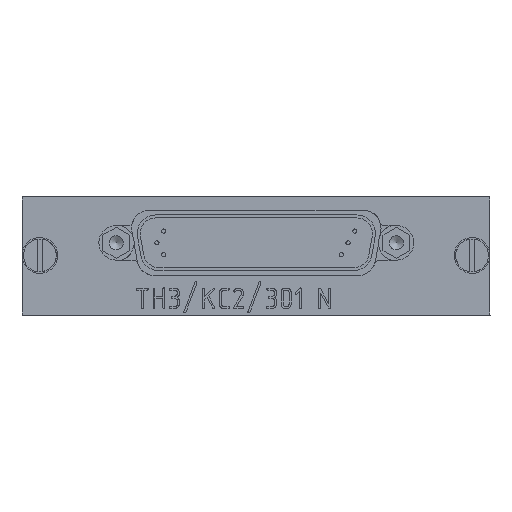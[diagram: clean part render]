
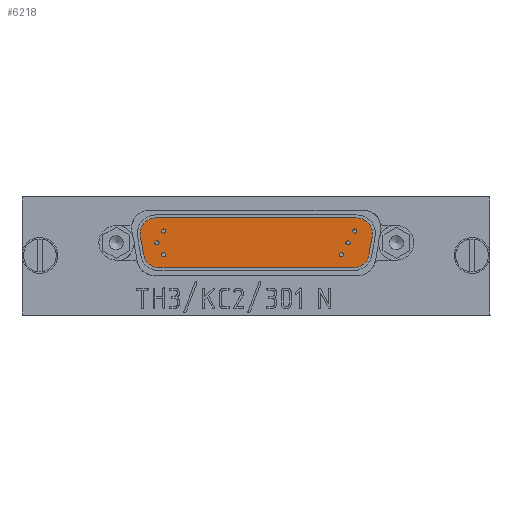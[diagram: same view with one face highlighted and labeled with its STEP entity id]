
A CAD part, left-side view. The second image highlights one B-rep face of the part: STEP entity #6218.
In plain terms, the highlighted planar face has unit normal (-1, 0, 0).
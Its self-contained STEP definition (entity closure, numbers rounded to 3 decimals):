
#6218=ADVANCED_FACE('',(#16360,#16362,#16364,#16366,#16368,#16370,#16372),#16374,
.T.);
#16360=FACE_BOUND('',#16361,.T.);
#16361=EDGE_LOOP('',(#25335,#25336,#25337,#25338,#25339,#25340,#25341,#25342));
#16362=FACE_BOUND('',#16363,.T.);
#16363=EDGE_LOOP('',(#25343));
#16364=FACE_BOUND('',#16365,.T.);
#16365=EDGE_LOOP('',(#25344));
#16366=FACE_BOUND('',#16367,.T.);
#16367=EDGE_LOOP('',(#25345));
#16368=FACE_BOUND('',#16369,.T.);
#16369=EDGE_LOOP('',(#25346));
#16370=FACE_BOUND('',#16371,.T.);
#16371=EDGE_LOOP('',(#25347));
#16372=FACE_BOUND('',#16373,.T.);
#16373=EDGE_LOOP('',(#25348));
#16374=PLANE('',#16375);
#16375=AXIS2_PLACEMENT_3D('',#16376,#16377,#16378);
#16376=CARTESIAN_POINT('',(-2.794,8.,0.07));
#16377=DIRECTION('',(-1.,0.,0.));
#16378=DIRECTION('',(0.,0.,1.));
#25335=ORIENTED_EDGE('',*,*,#29755,.T.);
#25336=ORIENTED_EDGE('',*,*,#29770,.T.);
#25337=ORIENTED_EDGE('',*,*,#29768,.T.);
#25338=ORIENTED_EDGE('',*,*,#29766,.T.);
#25339=ORIENTED_EDGE('',*,*,#29764,.T.);
#25340=ORIENTED_EDGE('',*,*,#29762,.T.);
#25341=ORIENTED_EDGE('',*,*,#29760,.T.);
#25342=ORIENTED_EDGE('',*,*,#29758,.T.);
#25343=ORIENTED_EDGE('',*,*,#29909,.T.);
#25344=ORIENTED_EDGE('',*,*,#29910,.T.);
#25345=ORIENTED_EDGE('',*,*,#29911,.T.);
#25346=ORIENTED_EDGE('',*,*,#29912,.T.);
#25347=ORIENTED_EDGE('',*,*,#29913,.T.);
#25348=ORIENTED_EDGE('',*,*,#29914,.T.);
#29755=EDGE_CURVE('',#34276,#34277,#34278,.T.);
#29758=EDGE_CURVE('',#34281,#34276,#34282,.T.);
#29760=EDGE_CURVE('',#34284,#34281,#34285,.T.);
#29762=EDGE_CURVE('',#34287,#34284,#34288,.T.);
#29764=EDGE_CURVE('',#34290,#34287,#34291,.T.);
#29766=EDGE_CURVE('',#34293,#34290,#34294,.T.);
#29768=EDGE_CURVE('',#34296,#34293,#34297,.T.);
#29770=EDGE_CURVE('',#34277,#34296,#34299,.T.);
#29909=EDGE_CURVE('',#34526,#34526,#34527,.T.);
#29910=EDGE_CURVE('',#34528,#34528,#34529,.T.);
#29911=EDGE_CURVE('',#34530,#34530,#34531,.T.);
#29912=EDGE_CURVE('',#34532,#34532,#34533,.T.);
#29913=EDGE_CURVE('',#34534,#34534,#34535,.T.);
#29914=EDGE_CURVE('',#34536,#34536,#34537,.T.);
#34276=VERTEX_POINT('',#44429);
#34277=VERTEX_POINT('',#44430);
#34278=LINE('',#44431,#44432);
#34281=VERTEX_POINT('',#44440);
#34282=CIRCLE('',#44441,2.6);
#34284=VERTEX_POINT('',#44448);
#34285=LINE('',#44449,#44450);
#34287=VERTEX_POINT('',#44455);
#34288=CIRCLE('',#44456,2.6);
#34290=VERTEX_POINT('',#44463);
#34291=LINE('',#44464,#44465);
#34293=VERTEX_POINT('',#44470);
#34294=CIRCLE('',#44471,2.6);
#34296=VERTEX_POINT('',#44478);
#34297=LINE('',#44479,#44480);
#34299=CIRCLE('',#44485,2.6);
#34526=VERTEX_POINT('',#45037);
#34527=CIRCLE('',#45038,0.35);
#34528=VERTEX_POINT('',#45042);
#34529=CIRCLE('',#45043,0.35);
#34530=VERTEX_POINT('',#45047);
#34531=CIRCLE('',#45048,0.35);
#34532=VERTEX_POINT('',#45052);
#34533=CIRCLE('',#45053,0.35);
#34534=VERTEX_POINT('',#45057);
#34535=CIRCLE('',#45058,0.35);
#34536=VERTEX_POINT('',#45062);
#34537=CIRCLE('',#45063,0.35);
#44429=CARTESIAN_POINT('',(-2.794,51.073,2.19));
#44430=CARTESIAN_POINT('',(-2.794,18.427,2.19));
#44431=CARTESIAN_POINT('',(-2.794,51.073,2.19));
#44432=VECTOR('',#44433,1.);
#44433=DIRECTION('',(0.,-1.,0.));
#44440=CARTESIAN_POINT('',(-2.794,53.633,4.339));
#44441=AXIS2_PLACEMENT_3D('',#44442,#44443,#44444);
#44442=CARTESIAN_POINT('',(-2.794,51.073,4.79));
#44443=DIRECTION('',(-1.,0.,0.));
#44444=DIRECTION('',(0.,0.985,-0.174));
#44448=CARTESIAN_POINT('',(-2.794,54.19,7.499));
#44449=CARTESIAN_POINT('',(-2.794,54.19,7.499));
#44450=VECTOR('',#44451,1.);
#44451=DIRECTION('',(0.,-0.174,-0.985));
#44455=CARTESIAN_POINT('',(-2.794,51.63,10.55));
#44456=AXIS2_PLACEMENT_3D('',#44457,#44458,#44459);
#44457=CARTESIAN_POINT('',(-2.794,51.63,7.95));
#44458=DIRECTION('',(-1.,0.,0.));
#44459=DIRECTION('',(0.,0.,1.));
#44463=CARTESIAN_POINT('',(-2.794,17.87,10.55));
#44464=CARTESIAN_POINT('',(-2.794,17.87,10.55));
#44465=VECTOR('',#44466,1.);
#44466=DIRECTION('',(0.,1.,0.));
#44470=CARTESIAN_POINT('',(-2.794,15.309,7.499));
#44471=AXIS2_PLACEMENT_3D('',#44472,#44473,#44474);
#44472=CARTESIAN_POINT('',(-2.794,17.87,7.95));
#44473=DIRECTION('',(-1.,0.,0.));
#44474=DIRECTION('',(0.,-0.985,-0.174));
#44478=CARTESIAN_POINT('',(-2.794,15.867,4.339));
#44479=CARTESIAN_POINT('',(-2.794,15.867,4.339));
#44480=VECTOR('',#44481,1.);
#44481=DIRECTION('',(0.,-0.174,0.985));
#44485=AXIS2_PLACEMENT_3D('',#44486,#44487,#44488);
#44486=CARTESIAN_POINT('',(-2.794,18.427,4.79));
#44487=DIRECTION('',(-1.,0.,0.));
#44488=DIRECTION('',(0.,0.,-1.));
#45037=CARTESIAN_POINT('',(-2.794,17.86,8.35));
#45038=AXIS2_PLACEMENT_3D('',#45039,#45040,#45041);
#45039=CARTESIAN_POINT('',(-2.794,18.21,8.35));
#45040=DIRECTION('',(1.,0.,0.));
#45041=DIRECTION('',(0.,-1.,0.));
#45042=CARTESIAN_POINT('',(-2.794,51.07,6.37));
#45043=AXIS2_PLACEMENT_3D('',#45044,#45045,#45046);
#45044=CARTESIAN_POINT('',(-2.794,51.42,6.37));
#45045=DIRECTION('',(1.,0.,0.));
#45046=DIRECTION('',(0.,-1.,0.));
#45047=CARTESIAN_POINT('',(-2.794,19.01,6.37));
#45048=AXIS2_PLACEMENT_3D('',#45049,#45050,#45051);
#45049=CARTESIAN_POINT('',(-2.794,19.36,6.37));
#45050=DIRECTION('',(1.,0.,0.));
#45051=DIRECTION('',(0.,-1.,0.));
#45052=CARTESIAN_POINT('',(-2.794,49.92,4.39));
#45053=AXIS2_PLACEMENT_3D('',#45054,#45055,#45056);
#45054=CARTESIAN_POINT('',(-2.794,50.27,4.39));
#45055=DIRECTION('',(1.,0.,0.));
#45056=DIRECTION('',(0.,-1.,0.));
#45057=CARTESIAN_POINT('',(-2.794,20.15,4.39));
#45058=AXIS2_PLACEMENT_3D('',#45059,#45060,#45061);
#45059=CARTESIAN_POINT('',(-2.794,20.5,4.39));
#45060=DIRECTION('',(1.,0.,0.));
#45061=DIRECTION('',(0.,-1.,0.));
#45062=CARTESIAN_POINT('',(-2.794,49.92,8.35));
#45063=AXIS2_PLACEMENT_3D('',#45064,#45065,#45066);
#45064=CARTESIAN_POINT('',(-2.794,50.27,8.35));
#45065=DIRECTION('',(1.,0.,0.));
#45066=DIRECTION('',(0.,-1.,0.));
